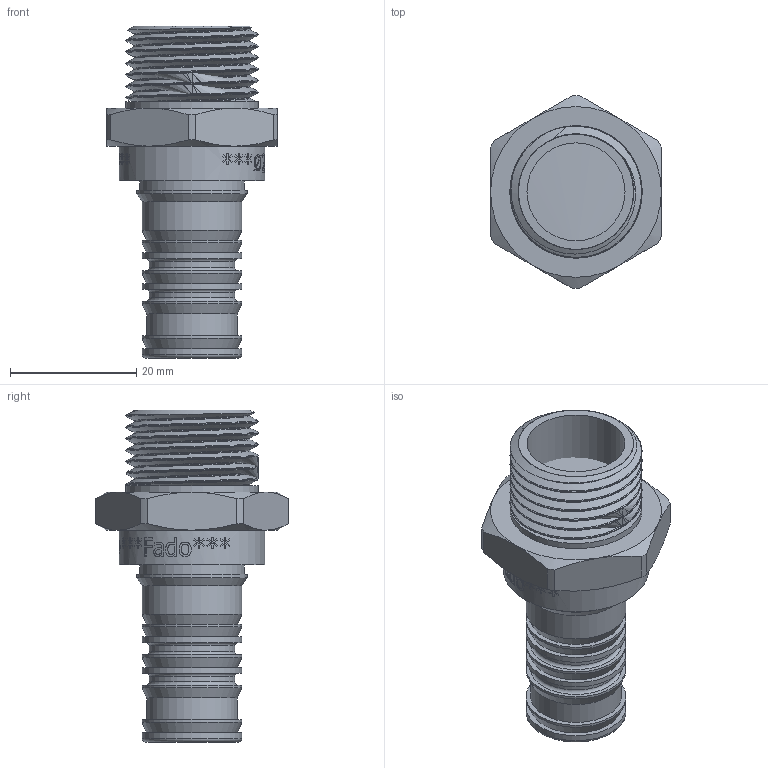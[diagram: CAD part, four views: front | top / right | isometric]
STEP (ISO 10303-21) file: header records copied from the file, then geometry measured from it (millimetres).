
FILE_DESCRIPTION(/* description */ (''),/* implementation_level */ '2;1');
FILE_NAME(/* name */ 'C:\Users\Doom\Desktop\Фадотех\Пресс\HDM23 20x0.5M 17.11.2020\HDM23 20x0.5M 17.11.2020.stp',/* time_stamp */ '2022-08-12T10:41:18+03:00',/* author */ ('Doom'),/* organization */ (''),/* preprocessor_version */ 'ST-DEVELOPER v18',/* originating_system */ 'Autodesk Inventor 2020',/* authorisation */ '');
FILE_SCHEMA (('AUTOMOTIVE_DESIGN { 1 0 10303 214 3 1 1 }'));
Length unit declared in the file: millimetre
Products named in the file (1): 16 Model 18.12.2019
Bounding box: 27 x 30.5 x 52.5 mm (x, y, z)
Volume: 8546.8 mm3; surface area: 9671 mm2
Topology: 2 solids, 2 shells, 510 faces, 1398 edges, 939 vertices
Faces by surface type: bspline 314, plane 103, cylinder 67, cone 21, torus 5
Full cylindrical faces by diameter (mm): 11.5 x1, 13.5 x2, 14.3 x1, 15.5 x1, 15.8 x8, 16.6 x1, 17.5 x1, 18.21 x2, 20.9 x8, 20.95 x1, 23 x1
Entity records: 25437 total; most frequent: CARTESIAN_POINT 14437, ORIENTED_EDGE 2796, EDGE_CURVE 1398, DIRECTION 1356, VERTEX_POINT 939, B_SPLINE_CURVE_WITH_KNOTS 649, EDGE_LOOP 561, FACE_OUTER_BOUND 510
